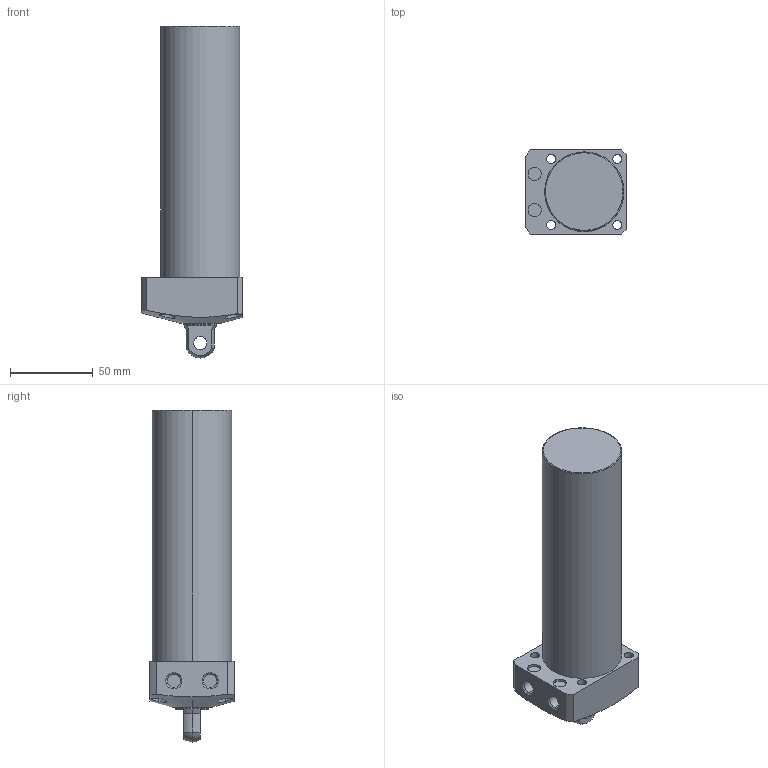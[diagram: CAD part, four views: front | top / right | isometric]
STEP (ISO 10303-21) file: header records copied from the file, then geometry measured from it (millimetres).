
FILE_DESCRIPTION (( 'STEP AP203' ), '1' );
FILE_NAME ('CLL-048CP-125.STEP', '2019-12-21T07:01:14', ( '' ), ( '' ), 'SwSTEP 2.0', 'SolidWorks 2015', '' );
FILE_SCHEMA (( 'CONFIG_CONTROL_DESIGN' ));
Length unit declared in the file: millimetre
Products named in the file (1): CLL-048CP-125
Bounding box: 61 x 51 x 201 mm (x, y, z)
Volume: 350390.6 mm3; surface area: 37740.5 mm2
Topology: 1 solids, 1 shells, 68 faces, 159 edges, 103 vertices
Faces by surface type: cylinder 35, plane 21, cone 8, sphere 2, torus 2
Entity records: 2390 total; most frequent: CARTESIAN_POINT 693, DIRECTION 357, ORIENTED_EDGE 318, EDGE_CURVE 159, AXIS2_PLACEMENT_3D 149, VERTEX_POINT 103, EDGE_LOOP 88, CIRCLE 80
